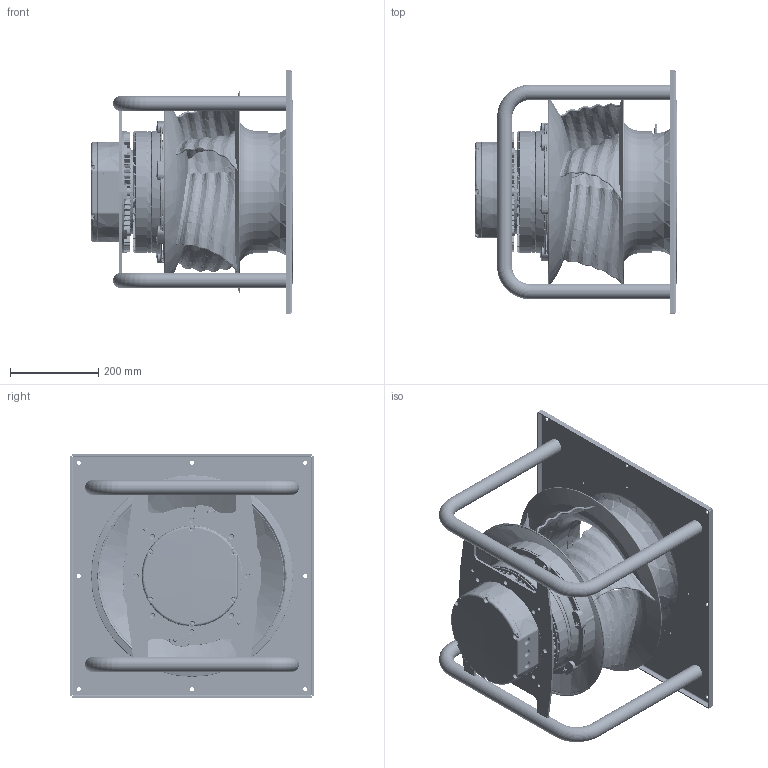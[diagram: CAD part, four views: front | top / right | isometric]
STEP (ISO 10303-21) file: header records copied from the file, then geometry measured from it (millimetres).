
FILE_DESCRIPTION((''),'2;1');
FILE_NAME('ZAC_08-07-33-KM','2020-02-05T',('moldovan'),(''),'CREO PARAMETRIC BY PTC INC, 2018070','CREO PARAMETRIC BY PTC INC, 2018070','');
FILE_SCHEMA(('AUTOMOTIVE_DESIGN { 1 0 10303 214 1 1 1 1 }'));
Length unit declared in the file: millimetre
Products named in the file (1): ZAC_08-07-33-KM
Bounding box: 458.02 x 550 x 550 mm (x, y, z)
Volume: 11906034.8 mm3; surface area: 2830018.1 mm2
Topology: 3 solids, 3 shells, 7469 faces, 18820 edges, 11462 vertices
Faces by surface type: bspline 2238, plane 1849, cylinder 1086, torus 1073, cone 739, extrusion 434, sphere 42, revolution 8
Entity records: 451209 total; most frequent: CARTESIAN_POINT 277471, ORIENTED_EDGE 37630, DIRECTION 29184, EDGE_CURVE 18815, AXIS2_PLACEMENT_3D 11728, VERTEX_POINT 11462, EDGE_LOOP 7817, FACE_OUTER_BOUND 7469
